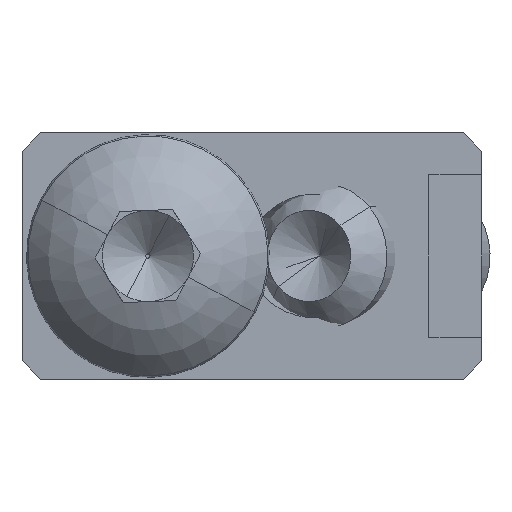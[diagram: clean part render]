
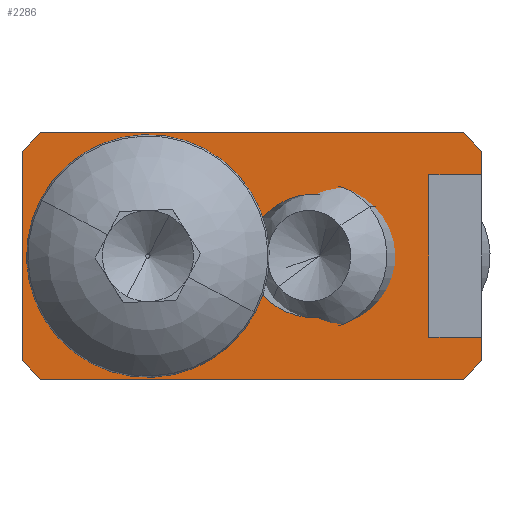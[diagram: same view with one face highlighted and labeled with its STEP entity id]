
A CAD part, front view. The second image highlights one B-rep face of the part: STEP entity #2286.
In plain terms, the highlighted planar face has unit normal (0, -1, 0).
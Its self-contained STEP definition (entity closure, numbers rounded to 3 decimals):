
#2 = CARTESIAN_POINT ( 'NONE',  ( -14.1, 0., 6.75 ) ) ;
#4 = DIRECTION ( 'NONE',  ( -0.707, 0., 0.707 ) ) ;
#19 = ORIENTED_EDGE ( 'NONE', *, *, #2233, .T. ) ;
#45 = VERTEX_POINT ( 'NONE', #1678 ) ;
#57 = EDGE_CURVE ( 'NONE', #1042, #517, #752, .T. ) ;
#77 = VECTOR ( 'NONE', #733, 1000. ) ;
#116 = PLANE ( 'NONE',  #770 ) ;
#117 = CARTESIAN_POINT ( 'NONE',  ( 8.2, 0., 4.45 ) ) ;
#132 = VERTEX_POINT ( 'NONE', #2316 ) ;
#145 = VERTEX_POINT ( 'NONE', #526 ) ;
#152 = VERTEX_POINT ( 'NONE', #1889 ) ;
#184 = VECTOR ( 'NONE', #1700, 1000. ) ;
#194 = ORIENTED_EDGE ( 'NONE', *, *, #1185, .F. ) ;
#198 = EDGE_CURVE ( 'NONE', #782, #1077, #1731, .T. ) ;
#201 = ORIENTED_EDGE ( 'NONE', *, *, #2490, .F. ) ;
#211 = CARTESIAN_POINT ( 'NONE',  ( -1.717, 0., 0. ) ) ;
#236 = AXIS2_PLACEMENT_3D ( 'NONE', #1424, #2200, #2008 ) ;
#242 = CARTESIAN_POINT ( 'NONE',  ( 5.706, 0., 0. ) ) ;
#320 = VECTOR ( 'NONE', #575, 1000. ) ;
#357 = AXIS2_PLACEMENT_3D ( 'NONE', #843, #1365, #2143 ) ;
#363 = FACE_BOUND ( 'NONE', #586, .T. ) ;
#400 = CARTESIAN_POINT ( 'NONE',  ( 11.1, 0., 0. ) ) ;
#479 = LINE ( 'NONE', #117, #2302 ) ;
#502 = LINE ( 'NONE', #1713, #2182 ) ;
#511 = VERTEX_POINT ( 'NONE', #2425 ) ;
#517 = VERTEX_POINT ( 'NONE', #1071 ) ;
#518 = EDGE_LOOP ( 'NONE', ( #2047, #2215, #2080, #655, #1501, #1543, #194, #624, #19, #201, #1330, #1899 ) ) ;
#526 = CARTESIAN_POINT ( 'NONE',  ( 8.2, 0., 4.45 ) ) ;
#558 =( BOUNDED_CURVE ( )  B_SPLINE_CURVE ( 3, ( #808, #990, #637, #1225 ),
 .UNSPECIFIED., .F., .F. ) 
 B_SPLINE_CURVE_WITH_KNOTS ( ( 4, 4 ),
 ( 0., 3.142 ),
 .UNSPECIFIED. ) 
 CURVE ( )  GEOMETRIC_REPRESENTATION_ITEM ( )  RATIONAL_B_SPLINE_CURVE ( ( 1., 0.333, 0.333, 1. ) ) 
 REPRESENTATION_ITEM ( '' )  );
#571 =( BOUNDED_CURVE ( )  B_SPLINE_CURVE ( 3, ( #211, #2133, #998, #242 ),
 .UNSPECIFIED., .F., .T. ) 
 B_SPLINE_CURVE_WITH_KNOTS ( ( 4, 4 ),
 ( 3.142, 6.283 ),
 .UNSPECIFIED. ) 
 CURVE ( )  GEOMETRIC_REPRESENTATION_ITEM ( )  RATIONAL_B_SPLINE_CURVE ( ( 1., 0.333, 0.333, 1. ) ) 
 REPRESENTATION_ITEM ( '' )  );
#575 = DIRECTION ( 'NONE',  ( 0., 0., 1. ) ) ;
#586 = EDGE_LOOP ( 'NONE', ( #1387, #1335 ) ) ;
#624 = ORIENTED_EDGE ( 'NONE', *, *, #57, .T. ) ;
#637 = CARTESIAN_POINT ( 'NONE',  ( -1.717, 0., 6.8 ) ) ;
#655 = ORIENTED_EDGE ( 'NONE', *, *, #198, .T. ) ;
#718 = CARTESIAN_POINT ( 'NONE',  ( 8.425, 0., -8.425 ) ) ;
#733 = DIRECTION ( 'NONE',  ( 0.707, 0., -0.707 ) ) ;
#752 = LINE ( 'NONE', #718, #1030 ) ;
#759 = CARTESIAN_POINT ( 'NONE',  ( 10.1, 0., 6.75 ) ) ;
#761 = DIRECTION ( 'NONE',  ( -1., 0., 0. ) ) ;
#770 = AXIS2_PLACEMENT_3D ( 'NONE', #892, #1286, #1146 ) ;
#779 = EDGE_CURVE ( 'NONE', #511, #1318, #571, .T. ) ;
#782 = VERTEX_POINT ( 'NONE', #1224 ) ;
#808 = CARTESIAN_POINT ( 'NONE',  ( 5.706, 0., 0. ) ) ;
#828 = VECTOR ( 'NONE', #761, 1000. ) ;
#829 = EDGE_CURVE ( 'NONE', #1984, #2136, #1980, .T. ) ;
#841 = CARTESIAN_POINT ( 'NONE',  ( -11.325, 0., 0. ) ) ;
#843 = CARTESIAN_POINT ( 'NONE',  ( -7.2, 0., 0. ) ) ;
#864 = VECTOR ( 'NONE', #2155, 1000. ) ;
#892 = CARTESIAN_POINT ( 'NONE',  ( 0., 0., 0. ) ) ;
#930 = VERTEX_POINT ( 'NONE', #1759 ) ;
#981 = EDGE_LOOP ( 'NONE', ( #1962, #2151 ) ) ;
#990 = CARTESIAN_POINT ( 'NONE',  ( 5.706, 0., 6.8 ) ) ;
#997 = LINE ( 'NONE', #2511, #1331 ) ;
#998 = CARTESIAN_POINT ( 'NONE',  ( 5.706, 0., -6.8 ) ) ;
#1030 = VECTOR ( 'NONE', #1349, 1000. ) ;
#1042 = VERTEX_POINT ( 'NONE', #2454 ) ;
#1071 = CARTESIAN_POINT ( 'NONE',  ( 11.1, 0., -5.75 ) ) ;
#1077 = VERTEX_POINT ( 'NONE', #1255 ) ;
#1146 = DIRECTION ( 'NONE',  ( 0., 0., -1. ) ) ;
#1164 = CARTESIAN_POINT ( 'NONE',  ( -3.075, 0., 0. ) ) ;
#1185 = EDGE_CURVE ( 'NONE', #1042, #132, #1511, .T. ) ;
#1224 = CARTESIAN_POINT ( 'NONE',  ( -13.1, 0., 6.75 ) ) ;
#1225 = CARTESIAN_POINT ( 'NONE',  ( -1.717, 0., 0. ) ) ;
#1242 = LINE ( 'NONE', #1470, #1506 ) ;
#1255 = CARTESIAN_POINT ( 'NONE',  ( -14.1, 0., 5.75 ) ) ;
#1258 = CARTESIAN_POINT ( 'NONE',  ( 8.2, 0., -4.45 ) ) ;
#1261 = EDGE_CURVE ( 'NONE', #782, #2210, #2506, .T. ) ;
#1286 = DIRECTION ( 'NONE',  ( 0., -1., 0. ) ) ;
#1318 = VERTEX_POINT ( 'NONE', #2335 ) ;
#1330 = ORIENTED_EDGE ( 'NONE', *, *, #1599, .F. ) ;
#1331 = VECTOR ( 'NONE', #4, 1000. ) ;
#1335 = ORIENTED_EDGE ( 'NONE', *, *, #829, .T. ) ;
#1346 = FACE_OUTER_BOUND ( 'NONE', #518, .T. ) ;
#1347 = CARTESIAN_POINT ( 'NONE',  ( -14.1, 0., 6.75 ) ) ;
#1349 = DIRECTION ( 'NONE',  ( 0.707, 0., 0.707 ) ) ;
#1357 = FACE_BOUND ( 'NONE', #981, .T. ) ;
#1365 = DIRECTION ( 'NONE',  ( 0., 1., 0. ) ) ;
#1387 = ORIENTED_EDGE ( 'NONE', *, *, #2193, .T. ) ;
#1424 = CARTESIAN_POINT ( 'NONE',  ( -7.2, 0., 0. ) ) ;
#1470 = CARTESIAN_POINT ( 'NONE',  ( 8.2, 0., -4.45 ) ) ;
#1490 = CARTESIAN_POINT ( 'NONE',  ( 11.1, 0., 0. ) ) ;
#1501 = ORIENTED_EDGE ( 'NONE', *, *, #1733, .F. ) ;
#1506 = VECTOR ( 'NONE', #2065, 1000. ) ;
#1511 = LINE ( 'NONE', #2278, #828 ) ;
#1543 = ORIENTED_EDGE ( 'NONE', *, *, #1925, .T. ) ;
#1599 = EDGE_CURVE ( 'NONE', #145, #2109, #479, .T. ) ;
#1678 = CARTESIAN_POINT ( 'NONE',  ( 11.1, 0., -4.45 ) ) ;
#1693 = LINE ( 'NONE', #2473, #77 ) ;
#1697 = VECTOR ( 'NONE', #1795, 1000. ) ;
#1700 = DIRECTION ( 'NONE',  ( 0., 0., 1. ) ) ;
#1713 = CARTESIAN_POINT ( 'NONE',  ( 8.2, 0., 4.45 ) ) ;
#1731 = LINE ( 'NONE', #2131, #864 ) ;
#1733 = EDGE_CURVE ( 'NONE', #1928, #1077, #2508, .T. ) ;
#1753 = VECTOR ( 'NONE', #1912, 1000. ) ;
#1759 = CARTESIAN_POINT ( 'NONE',  ( 11.1, 0., 5.75 ) ) ;
#1780 = LINE ( 'NONE', #400, #1697 ) ;
#1795 = DIRECTION ( 'NONE',  ( 0., 0., 1. ) ) ;
#1832 = EDGE_CURVE ( 'NONE', #152, #145, #502, .T. ) ;
#1889 = CARTESIAN_POINT ( 'NONE',  ( 11.1, 0., 4.45 ) ) ;
#1899 = ORIENTED_EDGE ( 'NONE', *, *, #1832, .F. ) ;
#1912 = DIRECTION ( 'NONE',  ( 1., 0., 0. ) ) ;
#1925 = EDGE_CURVE ( 'NONE', #1928, #132, #1693, .T. ) ;
#1928 = VERTEX_POINT ( 'NONE', #2085 ) ;
#1962 = ORIENTED_EDGE ( 'NONE', *, *, #779, .F. ) ;
#1980 = CIRCLE ( 'NONE', #357, 4.125 ) ;
#1984 = VERTEX_POINT ( 'NONE', #1164 ) ;
#1989 = EDGE_CURVE ( 'NONE', #930, #2210, #997, .T. ) ;
#2008 = DIRECTION ( 'NONE',  ( -1., 0., 0. ) ) ;
#2047 = ORIENTED_EDGE ( 'NONE', *, *, #2345, .T. ) ;
#2065 = DIRECTION ( 'NONE',  ( 1., 0., 0. ) ) ;
#2080 = ORIENTED_EDGE ( 'NONE', *, *, #1261, .F. ) ;
#2085 = CARTESIAN_POINT ( 'NONE',  ( -14.1, 0., -5.75 ) ) ;
#2109 = VERTEX_POINT ( 'NONE', #1258 ) ;
#2131 = CARTESIAN_POINT ( 'NONE',  ( -9.925, 0., 9.925 ) ) ;
#2133 = CARTESIAN_POINT ( 'NONE',  ( -1.717, 0., -6.8 ) ) ;
#2136 = VERTEX_POINT ( 'NONE', #841 ) ;
#2143 = DIRECTION ( 'NONE',  ( -1., 0., 0. ) ) ;
#2151 = ORIENTED_EDGE ( 'NONE', *, *, #2390, .F. ) ;
#2155 = DIRECTION ( 'NONE',  ( -0.707, 0., -0.707 ) ) ;
#2182 = VECTOR ( 'NONE', #2499, 1000. ) ;
#2193 = EDGE_CURVE ( 'NONE', #2136, #1984, #2346, .T. ) ;
#2200 = DIRECTION ( 'NONE',  ( 0., 1., 0. ) ) ;
#2210 = VERTEX_POINT ( 'NONE', #759 ) ;
#2215 = ORIENTED_EDGE ( 'NONE', *, *, #1989, .T. ) ;
#2233 = EDGE_CURVE ( 'NONE', #517, #45, #2457, .T. ) ;
#2269 = DIRECTION ( 'NONE',  ( 0., 0., -1. ) ) ;
#2278 = CARTESIAN_POINT ( 'NONE',  ( -14.1, 0., -6.75 ) ) ;
#2286 = ADVANCED_FACE ( 'NONE', ( #363, #1357, #1346 ), #116, .T. ) ;
#2302 = VECTOR ( 'NONE', #2269, 1000. ) ;
#2316 = CARTESIAN_POINT ( 'NONE',  ( -13.1, 0., -6.75 ) ) ;
#2335 = CARTESIAN_POINT ( 'NONE',  ( 5.706, 0., 0. ) ) ;
#2345 = EDGE_CURVE ( 'NONE', #152, #930, #1780, .T. ) ;
#2346 = CIRCLE ( 'NONE', #236, 4.125 ) ;
#2390 = EDGE_CURVE ( 'NONE', #1318, #511, #558, .T. ) ;
#2425 = CARTESIAN_POINT ( 'NONE',  ( -1.717, 0., 0. ) ) ;
#2454 = CARTESIAN_POINT ( 'NONE',  ( 10.1, 0., -6.75 ) ) ;
#2457 = LINE ( 'NONE', #1490, #320 ) ;
#2473 = CARTESIAN_POINT ( 'NONE',  ( -9.925, 0., -9.925 ) ) ;
#2490 = EDGE_CURVE ( 'NONE', #2109, #45, #1242, .T. ) ;
#2499 = DIRECTION ( 'NONE',  ( -1., 0., 0. ) ) ;
#2506 = LINE ( 'NONE', #1347, #1753 ) ;
#2508 = LINE ( 'NONE', #2, #184 ) ;
#2511 = CARTESIAN_POINT ( 'NONE',  ( 8.425, 0., 8.425 ) ) ;
